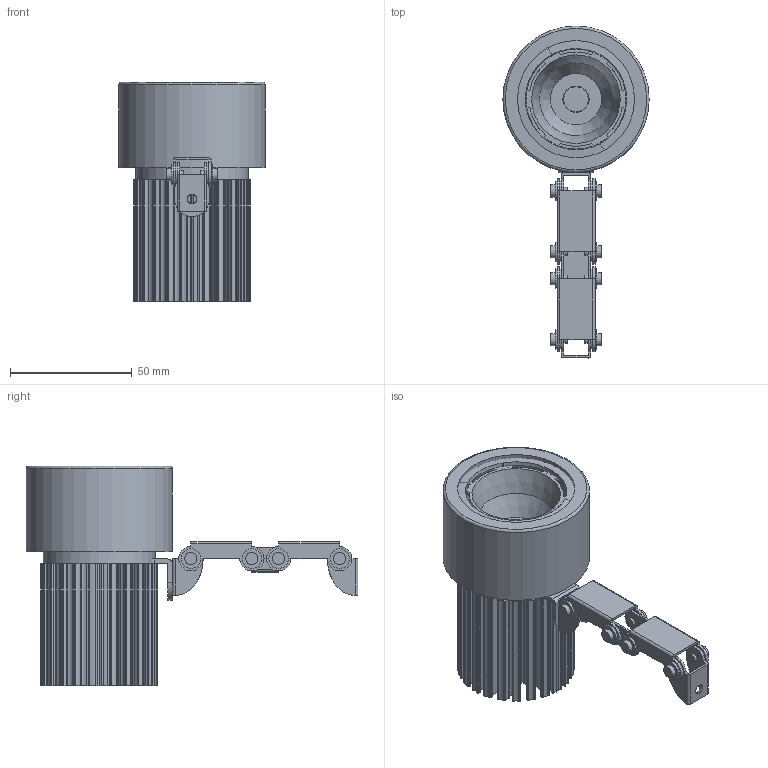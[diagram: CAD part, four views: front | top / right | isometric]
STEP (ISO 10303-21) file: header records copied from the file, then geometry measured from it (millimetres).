
FILE_DESCRIPTION(/* description */ (''),/* implementation_level */ '2;1');
FILE_NAME(/* name */ 'C:/Users/elena/OneDrive/Allegati di posta elettronica/Desktop/Raffaello probo.step',/* time_stamp */ '2020-06-03T12:53:49+02:00',/* author */ (''),/* organization */ (''),/* preprocessor_version */ 'ST-DEVELOPER v18.1',/* originating_system */ 'Autodesk Translation Framework v9.3.0.1241',/* authorisation */ '');
FILE_SCHEMA (('AUTOMOTIVE_DESIGN { 1 0 10303 214 3 1 1 }'));
Length unit declared in the file: millimetre
Products named in the file (1): FusionComponent
Bounding box: 60 x 136.1 x 90 mm (x, y, z)
Volume: 111360.3 mm3; surface area: 75797.2 mm2
Topology: 17 solids, 17 shells, 935 faces, 2514 edges, 1617 vertices
Faces by surface type: cylinder 448, plane 291, bspline 84, torus 51, cone 39, sphere 22
Full cylindrical faces by diameter (mm): 2.5 x8, 3 x24, 3.5 x1, 4 x2, 5 x8, 8 x16, 46 x2, 48 x1, 55 x2, 60 x1
Entity records: 33747 total; most frequent: CARTESIAN_POINT 9637, DIRECTION 5351, ORIENTED_EDGE 4984, EDGE_CURVE 2492, AXIS2_PLACEMENT_3D 2127, VERTEX_POINT 1617, CIRCLE 1208, LINE 1097
